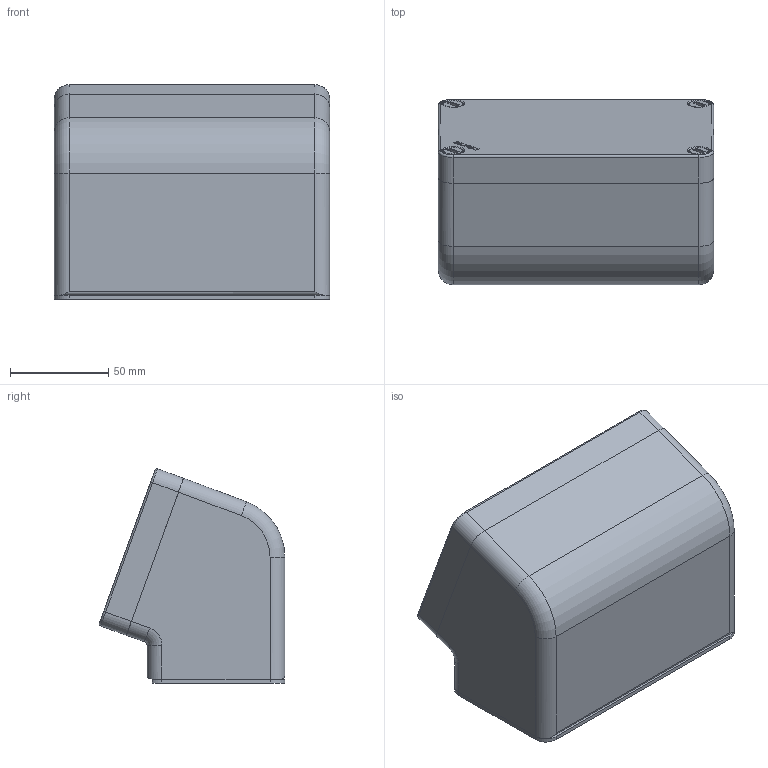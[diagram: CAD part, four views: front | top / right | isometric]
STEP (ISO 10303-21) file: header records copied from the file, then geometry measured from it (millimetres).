
FILE_DESCRIPTION (( 'STEP AP214' ), '1' );
FILE_NAME ('040L0814-8E.STEP', '2018-04-28T14:36:08', ( '' ), ( '' ), 'SwSTEP 2.0', 'SolidWorks 2013', '' );
FILE_SCHEMA (( 'AUTOMOTIVE_DESIGN' ));
Length unit declared in the file: millimetre
Products named in the file (1): 040L0814-8E
Bounding box: 140 x 94.41 x 109.11 mm (x, y, z)
Volume: 288563.4 mm3; surface area: 145386.3 mm2
Topology: 7 solids, 7 shells, 547 faces, 1373 edges, 866 vertices
Faces by surface type: cylinder 239, plane 226, torus 80, bspline 2
Entity records: 22778 total; most frequent: CARTESIAN_POINT 3318, DIRECTION 2900, ORIENTED_EDGE 2746, EDGE_CURVE 1373, AXIS2_PLACEMENT_3D 1065, VERTEX_POINT 866, VECTOR 770, LINE 770
